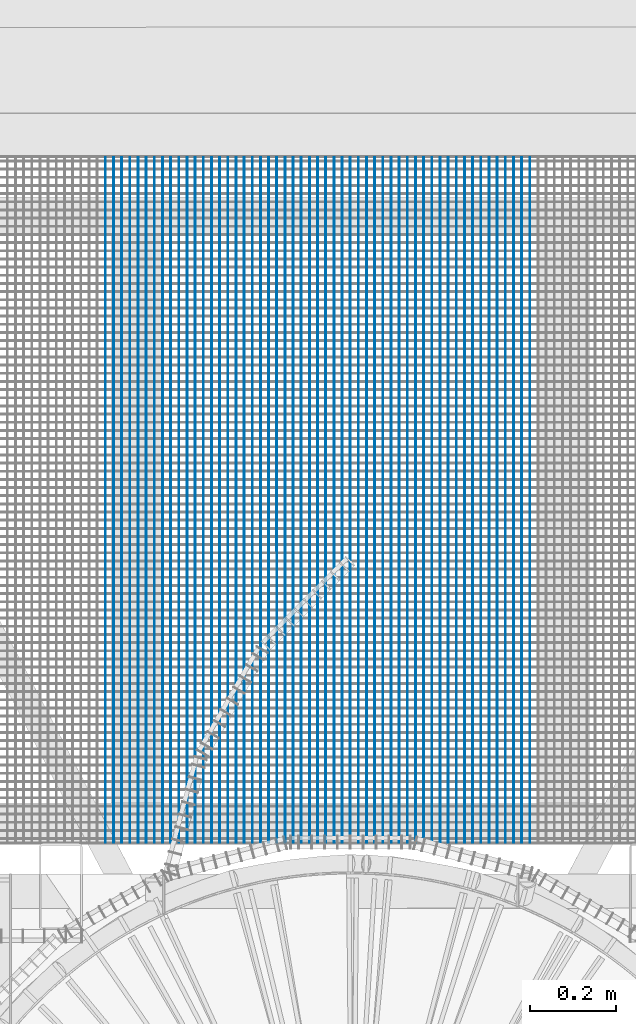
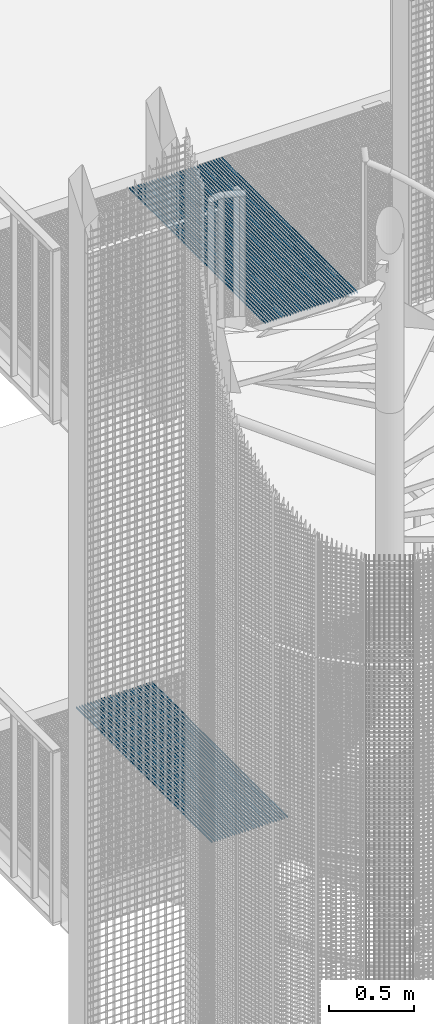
# One storey, part 83 of 1148: 62 beams, 2 elements without a shape of their own.
"""IFC2X3 building model written with IfcOpenShell, lengths in millimetres."""

from ifc_helpers import new_model, si_unit, frame, origin_with_axes, origin_2d_with_axis, place, context, subcontext, project, spatial, rectangle, extrude, material, type_object, element, aggregate, save


model = new_model("IFC2X3")

# Units and contexts
model_context = context("Model", 3, precision=1e-05, world=origin_with_axes())
body_context = subcontext(model_context, "Body", "Model", "MODEL_VIEW")
ifc_project = project(units=[si_unit("LENGTHUNIT", "METRE", prefix="MILLI"), si_unit("AREAUNIT", "SQUARE_METRE"), si_unit("VOLUMEUNIT", "CUBIC_METRE"), si_unit("MASSUNIT", "GRAM", prefix="KILO"), si_unit("TIMEUNIT", "SECOND"), si_unit("PLANEANGLEUNIT", "RADIAN"), si_unit("SOLIDANGLEUNIT", "STERADIAN"), si_unit("THERMODYNAMICTEMPERATUREUNIT", "DEGREE_CELSIUS"), si_unit("LUMINOUSINTENSITYUNIT", "LUMEN")], contexts=[model_context])

# Site, building, storey
site_placement = place(None, origin_with_axes())
site = spatial("IfcSite", under=ifc_project, at=site_placement, Name="Undefined", CompositionType="ELEMENT")
building_placement = place(site_placement, origin_with_axes())
building = spatial("IfcBuilding", under=site, at=building_placement, Name="Undefined", CompositionType="ELEMENT")
storey_placement = place(building_placement, origin_with_axes())
storey = spatial("IfcBuildingStorey", under=building, at=storey_placement, Name="Undefined", CompositionType="ELEMENT", Elevation=0.0)

# Assembly, beams
assembly_1_placement = place(storey_placement, origin_with_axes())
assembly_1 = element("IfcElementAssembly", 1, at=assembly_1_placement, inside=storey, Name="BORDURE", AssemblyPlace="NOTDEFINED", PredefinedType="NOTDEFINED")
ifc_material = material(Name="STEEL/S235JR")
beam_type = type_object("IfcBeamType", Name="PL2*10", PredefinedType="NOTDEFINED")
beam_1_placement = place(assembly_1_placement, frame((-208.924575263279, 1102.0012903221, 10085.0), z_axis=(0.0, 0.0, 1.0), x_axis=(-4.50599999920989e-06, 0.999999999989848, 0.0)))
beam_1 = element("IfcBeam", 2, at=beam_1_placement, type_object=beam_type, material=ifc_material, Name="ENTRETOISE", context=body_context, shape_type="SweptSolid", body=[
    extrude(rectangle(XDim=2.0, YDim=10.0, at=origin_2d_with_axis()), frame((1596.0000000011, -1.35186458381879e-18, -7.27595761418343e-12), z_axis=(-1.0, 0.0, 0.0), x_axis=(0.0, -1.0, 0.0)), (0.0, 0.0, 1.0), 1596.0),
])
beam_2_placement = place(assembly_1_placement, frame((-189.924575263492, 1102.00138384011, 10085.0), z_axis=(0.0, 0.0, 1.0), x_axis=(-4.50599999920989e-06, 0.999999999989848, 0.0)))
beam_2 = element("IfcBeam", 3, at=beam_2_placement, type_object=beam_type, material=ifc_material, Name="ENTRETOISE", context=body_context, shape_type="SweptSolid", body=[
    extrude(rectangle(XDim=2.0, YDim=10.0, at=origin_2d_with_axis()), frame((1596.0000000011, -1.35186458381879e-18, -7.27595761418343e-12), z_axis=(-1.0, 0.0, 0.0), x_axis=(0.0, -1.0, 0.0)), (0.0, 0.0, 1.0), 1596.0),
])
beam_3_placement = place(assembly_1_placement, frame((-170.924575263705, 1102.00147735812, 10085.0), z_axis=(0.0, 0.0, 1.0), x_axis=(-4.50599999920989e-06, 0.999999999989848, 0.0)))
beam_3 = element("IfcBeam", 4, at=beam_3_placement, type_object=beam_type, material=ifc_material, Name="ENTRETOISE", context=body_context, shape_type="SweptSolid", body=[
    extrude(rectangle(XDim=2.0, YDim=10.0, at=origin_2d_with_axis()), frame((1596.0000000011, -1.35186458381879e-18, -7.27595761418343e-12), z_axis=(-1.0, 0.0, 0.0), x_axis=(0.0, -1.0, 0.0)), (0.0, 0.0, 1.0), 1596.0),
])
beam_4_placement = place(assembly_1_placement, frame((-151.924575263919, 1102.00157087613, 10085.0), z_axis=(0.0, 0.0, 1.0), x_axis=(-4.50599999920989e-06, 0.999999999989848, 0.0)))
beam_4 = element("IfcBeam", 5, at=beam_4_placement, type_object=beam_type, material=ifc_material, Name="ENTRETOISE", context=body_context, shape_type="SweptSolid", body=[
    extrude(rectangle(XDim=2.0, YDim=10.0, at=origin_2d_with_axis()), frame((1596.0000000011, -1.35186458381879e-18, -7.27595761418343e-12), z_axis=(-1.0, 0.0, 0.0), x_axis=(0.0, -1.0, 0.0)), (0.0, 0.0, 1.0), 1596.0),
])
beam_5_placement = place(assembly_1_placement, frame((-132.924575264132, 1102.00166439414, 10085.0), z_axis=(0.0, 0.0, 1.0), x_axis=(-4.50599999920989e-06, 0.999999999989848, 0.0)))
beam_5 = element("IfcBeam", 6, at=beam_5_placement, type_object=beam_type, material=ifc_material, Name="ENTRETOISE", context=body_context, shape_type="SweptSolid", body=[
    extrude(rectangle(XDim=2.0, YDim=10.0, at=origin_2d_with_axis()), frame((1596.0000000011, -1.35186458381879e-18, -7.27595761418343e-12), z_axis=(-1.0, 0.0, 0.0), x_axis=(0.0, -1.0, 0.0)), (0.0, 0.0, 1.0), 1596.0),
])
beam_6_placement = place(assembly_1_placement, frame((-113.924575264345, 1102.00175791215, 10085.0), z_axis=(0.0, 0.0, 1.0), x_axis=(-4.50599999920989e-06, 0.999999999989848, 0.0)))
beam_6 = element("IfcBeam", 7, at=beam_6_placement, type_object=beam_type, material=ifc_material, Name="ENTRETOISE", context=body_context, shape_type="SweptSolid", body=[
    extrude(rectangle(XDim=2.0, YDim=10.0, at=origin_2d_with_axis()), frame((1596.0000000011, -1.35186458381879e-18, -7.27595761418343e-12), z_axis=(-1.0, 0.0, 0.0), x_axis=(0.0, -1.0, 0.0)), (0.0, 0.0, 1.0), 1596.0),
])
beam_7_placement = place(assembly_1_placement, frame((-94.9245752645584, 1102.00185143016, 10085.0), z_axis=(0.0, 0.0, 1.0), x_axis=(-4.50599999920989e-06, 0.999999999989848, 0.0)))
beam_7 = element("IfcBeam", 8, at=beam_7_placement, type_object=beam_type, material=ifc_material, Name="ENTRETOISE", context=body_context, shape_type="SweptSolid", body=[
    extrude(rectangle(XDim=2.0, YDim=10.0, at=origin_2d_with_axis()), frame((1596.0000000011, -1.35186458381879e-18, -7.27595761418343e-12), z_axis=(-1.0, 0.0, 0.0), x_axis=(0.0, -1.0, 0.0)), (0.0, 0.0, 1.0), 1596.0),
])
beam_8_placement = place(assembly_1_placement, frame((-75.9245752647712, 1102.00194494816, 10085.0), z_axis=(0.0, 0.0, 1.0), x_axis=(-4.50599999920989e-06, 0.999999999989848, 0.0)))
beam_8 = element("IfcBeam", 9, at=beam_8_placement, type_object=beam_type, material=ifc_material, Name="ENTRETOISE", context=body_context, shape_type="SweptSolid", body=[
    extrude(rectangle(XDim=2.0, YDim=10.0, at=origin_2d_with_axis()), frame((1596.0000000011, -1.35186458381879e-18, -7.27595761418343e-12), z_axis=(-1.0, 0.0, 0.0), x_axis=(0.0, -1.0, 0.0)), (0.0, 0.0, 1.0), 1596.0),
])
beam_9_placement = place(assembly_1_placement, frame((-56.9245752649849, 1102.00203846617, 10085.0), z_axis=(0.0, 0.0, 1.0), x_axis=(-4.50599999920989e-06, 0.999999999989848, 0.0)))
beam_9 = element("IfcBeam", 10, at=beam_9_placement, type_object=beam_type, material=ifc_material, Name="ENTRETOISE", context=body_context, shape_type="SweptSolid", body=[
    extrude(rectangle(XDim=2.0, YDim=10.0, at=origin_2d_with_axis()), frame((1596.0000000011, -1.35186458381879e-18, -7.27595761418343e-12), z_axis=(-1.0, 0.0, 0.0), x_axis=(0.0, -1.0, 0.0)), (0.0, 0.0, 1.0), 1596.0),
])
beam_10_placement = place(assembly_1_placement, frame((-37.9245752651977, 1102.00213198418, 10085.0), z_axis=(0.0, 0.0, 1.0), x_axis=(-4.50599999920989e-06, 0.999999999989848, 0.0)))
beam_10 = element("IfcBeam", 11, at=beam_10_placement, type_object=beam_type, material=ifc_material, Name="ENTRETOISE", context=body_context, shape_type="SweptSolid", body=[
    extrude(rectangle(XDim=2.0, YDim=10.0, at=origin_2d_with_axis()), frame((1596.0000000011, -1.35186458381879e-18, -7.27595761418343e-12), z_axis=(-1.0, 0.0, 0.0), x_axis=(0.0, -1.0, 0.0)), (0.0, 0.0, 1.0), 1596.0),
])
beam_11_placement = place(assembly_1_placement, frame((-18.9245752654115, 1102.00222550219, 10085.0), z_axis=(0.0, 0.0, 1.0), x_axis=(-4.50599999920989e-06, 0.999999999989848, 0.0)))
beam_11 = element("IfcBeam", 12, at=beam_11_placement, type_object=beam_type, material=ifc_material, Name="ENTRETOISE", context=body_context, shape_type="SweptSolid", body=[
    extrude(rectangle(XDim=2.0, YDim=10.0, at=origin_2d_with_axis()), frame((1596.0000000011, -1.35186458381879e-18, -7.27595761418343e-12), z_axis=(-1.0, 0.0, 0.0), x_axis=(0.0, -1.0, 0.0)), (0.0, 0.0, 1.0), 1596.0),
])
beam_12_placement = place(assembly_1_placement, frame((0.075424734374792, 1102.0023190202, 10085.0), z_axis=(0.0, 0.0, 1.0), x_axis=(-4.50599999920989e-06, 0.999999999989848, 0.0)))
beam_12 = element("IfcBeam", 13, at=beam_12_placement, type_object=beam_type, material=ifc_material, Name="ENTRETOISE", context=body_context, shape_type="SweptSolid", body=[
    extrude(rectangle(XDim=2.0, YDim=10.0, at=origin_2d_with_axis()), frame((1596.0000000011, -1.35186458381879e-18, -7.27595761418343e-12), z_axis=(-1.0, 0.0, 0.0), x_axis=(0.0, -1.0, 0.0)), (0.0, 0.0, 1.0), 1596.0),
])
beam_13_placement = place(assembly_1_placement, frame((19.075424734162, 1102.00241253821, 10085.0), z_axis=(0.0, 0.0, 1.0), x_axis=(-4.50599999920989e-06, 0.999999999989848, 0.0)))
beam_13 = element("IfcBeam", 14, at=beam_13_placement, type_object=beam_type, material=ifc_material, Name="ENTRETOISE", context=body_context, shape_type="SweptSolid", body=[
    extrude(rectangle(XDim=2.0, YDim=10.0, at=origin_2d_with_axis()), frame((1596.0000000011, -1.35186458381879e-18, -7.27595761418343e-12), z_axis=(-1.0, 0.0, 0.0), x_axis=(0.0, -1.0, 0.0)), (0.0, 0.0, 1.0), 1596.0),
])
beam_14_placement = place(assembly_1_placement, frame((38.0754247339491, 1102.00250605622, 10085.0), z_axis=(0.0, 0.0, 1.0), x_axis=(-4.50599999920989e-06, 0.999999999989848, 0.0)))
beam_14 = element("IfcBeam", 15, at=beam_14_placement, type_object=beam_type, material=ifc_material, Name="ENTRETOISE", context=body_context, shape_type="SweptSolid", body=[
    extrude(rectangle(XDim=2.0, YDim=10.0, at=origin_2d_with_axis()), frame((1596.0000000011, -1.35186458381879e-18, -7.27595761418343e-12), z_axis=(-1.0, 0.0, 0.0), x_axis=(0.0, -1.0, 0.0)), (0.0, 0.0, 1.0), 1596.0),
])
beam_15_placement = place(assembly_1_placement, frame((57.0754247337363, 1102.00259957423, 10085.0), z_axis=(0.0, 0.0, 1.0), x_axis=(-4.50599999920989e-06, 0.999999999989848, 0.0)))
beam_15 = element("IfcBeam", 16, at=beam_15_placement, type_object=beam_type, material=ifc_material, Name="ENTRETOISE", context=body_context, shape_type="SweptSolid", body=[
    extrude(rectangle(XDim=2.0, YDim=10.0, at=origin_2d_with_axis()), frame((1596.0000000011, -1.35186458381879e-18, -7.27595761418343e-12), z_axis=(-1.0, 0.0, 0.0), x_axis=(0.0, -1.0, 0.0)), (0.0, 0.0, 1.0), 1596.0),
])
beam_16_placement = place(assembly_1_placement, frame((76.0754247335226, 1102.00269309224, 10085.0), z_axis=(0.0, 0.0, 1.0), x_axis=(-4.50599999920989e-06, 0.999999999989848, 0.0)))
beam_16 = element("IfcBeam", 17, at=beam_16_placement, type_object=beam_type, material=ifc_material, Name="ENTRETOISE", context=body_context, shape_type="SweptSolid", body=[
    extrude(rectangle(XDim=2.0, YDim=10.0, at=origin_2d_with_axis()), frame((1596.0000000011, -1.35186458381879e-18, -7.27595761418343e-12), z_axis=(-1.0, 0.0, 0.0), x_axis=(0.0, -1.0, 0.0)), (0.0, 0.0, 1.0), 1596.0),
])
beam_17_placement = place(assembly_1_placement, frame((95.0754247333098, 1102.00278661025, 10085.0), z_axis=(0.0, 0.0, 1.0), x_axis=(-4.50599999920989e-06, 0.999999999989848, 0.0)))
beam_17 = element("IfcBeam", 18, at=beam_17_placement, type_object=beam_type, material=ifc_material, Name="ENTRETOISE", context=body_context, shape_type="SweptSolid", body=[
    extrude(rectangle(XDim=2.0, YDim=10.0, at=origin_2d_with_axis()), frame((1596.0000000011, -1.35186458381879e-18, -7.27595761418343e-12), z_axis=(-1.0, 0.0, 0.0), x_axis=(0.0, -1.0, 0.0)), (0.0, 0.0, 1.0), 1596.0),
])
beam_18_placement = place(assembly_1_placement, frame((114.075424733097, 1102.00288012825, 10085.0), z_axis=(0.0, 0.0, 1.0), x_axis=(-4.50599999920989e-06, 0.999999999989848, 0.0)))
beam_18 = element("IfcBeam", 19, at=beam_18_placement, type_object=beam_type, material=ifc_material, Name="ENTRETOISE", context=body_context, shape_type="SweptSolid", body=[
    extrude(rectangle(XDim=2.0, YDim=10.0, at=origin_2d_with_axis()), frame((1596.0000000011, -1.35186458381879e-18, -7.27595761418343e-12), z_axis=(-1.0, 0.0, 0.0), x_axis=(0.0, -1.0, 0.0)), (0.0, 0.0, 1.0), 1596.0),
])
beam_19_placement = place(assembly_1_placement, frame((133.075424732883, 1102.00297364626, 10085.0), z_axis=(0.0, 0.0, 1.0), x_axis=(-4.50599999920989e-06, 0.999999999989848, 0.0)))
beam_19 = element("IfcBeam", 20, at=beam_19_placement, type_object=beam_type, material=ifc_material, Name="ENTRETOISE", context=body_context, shape_type="SweptSolid", body=[
    extrude(rectangle(XDim=2.0, YDim=10.0, at=origin_2d_with_axis()), frame((1596.0000000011, -1.35186458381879e-18, -7.27595761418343e-12), z_axis=(-1.0, 0.0, 0.0), x_axis=(0.0, -1.0, 0.0)), (0.0, 0.0, 1.0), 1596.0),
])
beam_20_placement = place(assembly_1_placement, frame((152.075424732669, 1102.00306716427, 10085.0), z_axis=(0.0, 0.0, 1.0), x_axis=(-4.50599999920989e-06, 0.999999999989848, 0.0)))
beam_20 = element("IfcBeam", 21, at=beam_20_placement, type_object=beam_type, material=ifc_material, Name="ENTRETOISE", context=body_context, shape_type="SweptSolid", body=[
    extrude(rectangle(XDim=2.0, YDim=10.0, at=origin_2d_with_axis()), frame((1596.0000000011, -1.35186458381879e-18, -7.27595761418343e-12), z_axis=(-1.0, 0.0, 0.0), x_axis=(0.0, -1.0, 0.0)), (0.0, 0.0, 1.0), 1596.0),
])
beam_21_placement = place(assembly_1_placement, frame((171.075424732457, 1102.00316068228, 10085.0), z_axis=(0.0, 0.0, 1.0), x_axis=(-4.50599999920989e-06, 0.999999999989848, 0.0)))
beam_21 = element("IfcBeam", 22, at=beam_21_placement, type_object=beam_type, material=ifc_material, Name="ENTRETOISE", context=body_context, shape_type="SweptSolid", body=[
    extrude(rectangle(XDim=2.0, YDim=10.0, at=origin_2d_with_axis()), frame((1596.0000000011, -1.35186458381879e-18, -7.27595761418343e-12), z_axis=(-1.0, 0.0, 0.0), x_axis=(0.0, -1.0, 0.0)), (0.0, 0.0, 1.0), 1596.0),
])
beam_22_placement = place(assembly_1_placement, frame((190.075424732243, 1102.00325420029, 10085.0), z_axis=(0.0, 0.0, 1.0), x_axis=(-4.50599999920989e-06, 0.999999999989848, 0.0)))
beam_22 = element("IfcBeam", 23, at=beam_22_placement, type_object=beam_type, material=ifc_material, Name="ENTRETOISE", context=body_context, shape_type="SweptSolid", body=[
    extrude(rectangle(XDim=2.0, YDim=10.0, at=origin_2d_with_axis()), frame((1596.0000000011, -1.35186458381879e-18, -7.27595761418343e-12), z_axis=(-1.0, 0.0, 0.0), x_axis=(0.0, -1.0, 0.0)), (0.0, 0.0, 1.0), 1596.0),
])
beam_23_placement = place(assembly_1_placement, frame((209.07542473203, 1102.0033477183, 10085.0), z_axis=(0.0, 0.0, 1.0), x_axis=(-4.50599999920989e-06, 0.999999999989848, 0.0)))
beam_23 = element("IfcBeam", 24, at=beam_23_placement, type_object=beam_type, material=ifc_material, Name="ENTRETOISE", context=body_context, shape_type="SweptSolid", body=[
    extrude(rectangle(XDim=2.0, YDim=10.0, at=origin_2d_with_axis()), frame((1596.0000000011, -1.35186458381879e-18, -7.27595761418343e-12), z_axis=(-1.0, 0.0, 0.0), x_axis=(0.0, -1.0, 0.0)), (0.0, 0.0, 1.0), 1596.0),
])
beam_24_placement = place(assembly_1_placement, frame((228.075424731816, 1102.00344123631, 10085.0), z_axis=(0.0, 0.0, 1.0), x_axis=(-4.50599999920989e-06, 0.999999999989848, 0.0)))
beam_24 = element("IfcBeam", 25, at=beam_24_placement, type_object=beam_type, material=ifc_material, Name="ENTRETOISE", context=body_context, shape_type="SweptSolid", body=[
    extrude(rectangle(XDim=2.0, YDim=10.0, at=origin_2d_with_axis()), frame((1596.0000000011, -1.35186458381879e-18, -7.27595761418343e-12), z_axis=(-1.0, 0.0, 0.0), x_axis=(0.0, -1.0, 0.0)), (0.0, 0.0, 1.0), 1596.0),
])
beam_25_placement = place(assembly_1_placement, frame((247.075424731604, 1102.00353475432, 10085.0), z_axis=(0.0, 0.0, 1.0), x_axis=(-4.50599999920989e-06, 0.999999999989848, 0.0)))
beam_25 = element("IfcBeam", 26, at=beam_25_placement, type_object=beam_type, material=ifc_material, Name="ENTRETOISE", context=body_context, shape_type="SweptSolid", body=[
    extrude(rectangle(XDim=2.0, YDim=10.0, at=origin_2d_with_axis()), frame((1596.0000000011, -1.35186458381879e-18, -7.27595761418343e-12), z_axis=(-1.0, 0.0, 0.0), x_axis=(0.0, -1.0, 0.0)), (0.0, 0.0, 1.0), 1596.0),
])
beam_26_placement = place(assembly_1_placement, frame((266.075424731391, 1102.00362827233, 10085.0), z_axis=(0.0, 0.0, 1.0), x_axis=(-4.50599999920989e-06, 0.999999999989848, 0.0)))
beam_26 = element("IfcBeam", 27, at=beam_26_placement, type_object=beam_type, material=ifc_material, Name="ENTRETOISE", context=body_context, shape_type="SweptSolid", body=[
    extrude(rectangle(XDim=2.0, YDim=10.0, at=origin_2d_with_axis()), frame((1596.0000000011, -1.35186458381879e-18, -7.27595761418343e-12), z_axis=(-1.0, 0.0, 0.0), x_axis=(0.0, -1.0, 0.0)), (0.0, 0.0, 1.0), 1596.0),
])
beam_27_placement = place(assembly_1_placement, frame((285.075424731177, 1102.00372179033, 10085.0), z_axis=(0.0, 0.0, 1.0), x_axis=(-4.50599999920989e-06, 0.999999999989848, 0.0)))
beam_27 = element("IfcBeam", 28, at=beam_27_placement, type_object=beam_type, material=ifc_material, Name="ENTRETOISE", context=body_context, shape_type="SweptSolid", body=[
    extrude(rectangle(XDim=2.0, YDim=10.0, at=origin_2d_with_axis()), frame((1596.0000000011, -1.35186458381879e-18, -7.27595761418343e-12), z_axis=(-1.0, 0.0, 0.0), x_axis=(0.0, -1.0, 0.0)), (0.0, 0.0, 1.0), 1596.0),
])
beam_28_placement = place(assembly_1_placement, frame((304.075424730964, 1102.00381530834, 10085.0), z_axis=(0.0, 0.0, 1.0), x_axis=(-4.50599999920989e-06, 0.999999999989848, 0.0)))
beam_28 = element("IfcBeam", 29, at=beam_28_placement, type_object=beam_type, material=ifc_material, Name="ENTRETOISE", context=body_context, shape_type="SweptSolid", body=[
    extrude(rectangle(XDim=2.0, YDim=10.0, at=origin_2d_with_axis()), frame((1596.0000000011, -1.35186458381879e-18, -7.27595761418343e-12), z_axis=(-1.0, 0.0, 0.0), x_axis=(0.0, -1.0, 0.0)), (0.0, 0.0, 1.0), 1596.0),
])
beam_29_placement = place(assembly_1_placement, frame((323.07542473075, 1102.00390882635, 10085.0), z_axis=(0.0, 0.0, 1.0), x_axis=(-4.50599999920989e-06, 0.999999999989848, 0.0)))
beam_29 = element("IfcBeam", 30, at=beam_29_placement, type_object=beam_type, material=ifc_material, Name="ENTRETOISE", context=body_context, shape_type="SweptSolid", body=[
    extrude(rectangle(XDim=2.0, YDim=10.0, at=origin_2d_with_axis()), frame((1596.0000000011, -1.35186458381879e-18, -7.27595761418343e-12), z_axis=(-1.0, 0.0, 0.0), x_axis=(0.0, -1.0, 0.0)), (0.0, 0.0, 1.0), 1596.0),
])
beam_30_placement = place(assembly_1_placement, frame((342.075424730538, 1102.00400234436, 10085.0), z_axis=(0.0, 0.0, 1.0), x_axis=(-4.50599999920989e-06, 0.999999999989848, 0.0)))
beam_30 = element("IfcBeam", 31, at=beam_30_placement, type_object=beam_type, material=ifc_material, Name="ENTRETOISE", context=body_context, shape_type="SweptSolid", body=[
    extrude(rectangle(XDim=2.0, YDim=10.0, at=origin_2d_with_axis()), frame((1596.0000000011, -1.35186458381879e-18, -7.27595761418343e-12), z_axis=(-1.0, 0.0, 0.0), x_axis=(0.0, -1.0, 0.0)), (0.0, 0.0, 1.0), 1596.0),
])
beam_31_placement = place(assembly_1_placement, frame((361.075424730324, 1102.00409586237, 10085.0), z_axis=(0.0, 0.0, 1.0), x_axis=(-4.50599999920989e-06, 0.999999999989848, 0.0)))
beam_31 = element("IfcBeam", 32, at=beam_31_placement, type_object=beam_type, material=ifc_material, Name="ENTRETOISE", context=body_context, shape_type="SweptSolid", body=[
    extrude(rectangle(XDim=2.0, YDim=10.0, at=origin_2d_with_axis()), frame((1596.0000000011, -1.35186458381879e-18, -7.27595761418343e-12), z_axis=(-1.0, 0.0, 0.0), x_axis=(0.0, -1.0, 0.0)), (0.0, 0.0, 1.0), 1596.0),
])
beam_32_placement = place(assembly_1_placement, frame((380.075424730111, 1102.00418938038, 10085.0), z_axis=(0.0, 0.0, 1.0), x_axis=(-4.50599999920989e-06, 0.999999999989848, 0.0)))
beam_32 = element("IfcBeam", 33, at=beam_32_placement, type_object=beam_type, material=ifc_material, Name="ENTRETOISE", context=body_context, shape_type="SweptSolid", body=[
    extrude(rectangle(XDim=2.0, YDim=10.0, at=origin_2d_with_axis()), frame((1596.0000000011, -1.35186458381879e-18, -7.27595761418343e-12), z_axis=(-1.0, 0.0, 0.0), x_axis=(0.0, -1.0, 0.0)), (0.0, 0.0, 1.0), 1596.0),
])
beam_33_placement = place(assembly_1_placement, frame((399.075424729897, 1102.00428289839, 10085.0), z_axis=(0.0, 0.0, 1.0), x_axis=(-4.50599999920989e-06, 0.999999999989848, 0.0)))
beam_33 = element("IfcBeam", 34, at=beam_33_placement, type_object=beam_type, material=ifc_material, Name="ENTRETOISE", context=body_context, shape_type="SweptSolid", body=[
    extrude(rectangle(XDim=2.0, YDim=10.0, at=origin_2d_with_axis()), frame((1596.0000000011, -1.35186458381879e-18, -7.27595761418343e-12), z_axis=(-1.0, 0.0, 0.0), x_axis=(0.0, -1.0, 0.0)), (0.0, 0.0, 1.0), 1596.0),
])
beam_34_placement = place(assembly_1_placement, frame((418.075424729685, 1102.0043764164, 10085.0), z_axis=(0.0, 0.0, 1.0), x_axis=(-4.50599999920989e-06, 0.999999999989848, 0.0)))
beam_34 = element("IfcBeam", 35, at=beam_34_placement, type_object=beam_type, material=ifc_material, Name="ENTRETOISE", context=body_context, shape_type="SweptSolid", body=[
    extrude(rectangle(XDim=2.0, YDim=10.0, at=origin_2d_with_axis()), frame((1596.0000000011, -1.35186458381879e-18, -7.27595761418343e-12), z_axis=(-1.0, 0.0, 0.0), x_axis=(0.0, -1.0, 0.0)), (0.0, 0.0, 1.0), 1596.0),
])
aggregate(assembly_1, [beam_1, beam_2, beam_3, beam_4, beam_5, beam_6, beam_7, beam_8, beam_9, beam_10, beam_11, beam_12, beam_13, beam_14, beam_15, beam_16, beam_17, beam_18, beam_19, beam_20, beam_21, beam_22, beam_23, beam_24, beam_25, beam_26, beam_27, beam_28, beam_29, beam_30, beam_31, beam_32, beam_33, beam_34])

assembly_2_placement = place(storey_placement, origin_with_axes())
assembly_2 = element("IfcElementAssembly", 36, at=assembly_2_placement, inside=storey, Name="BORDURE", AssemblyPlace="NOTDEFINED", PredefinedType="NOTDEFINED")
beam_35_placement = place(assembly_2_placement, frame((-569.924575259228, 1101.99951347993, 6485.0), z_axis=(0.0, 0.0, 1.0), x_axis=(-4.50599999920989e-06, 0.999999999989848, 0.0)))
beam_35 = element("IfcBeam", 37, at=beam_35_placement, type_object=beam_type, material=ifc_material, Name="ENTRETOISE", context=body_context, shape_type="SweptSolid", body=[
    extrude(rectangle(XDim=2.0, YDim=10.0, at=origin_2d_with_axis()), frame((1596.0000000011, -1.35186458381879e-18, -7.27595761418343e-12), z_axis=(-1.0, 0.0, 0.0), x_axis=(0.0, -1.0, 0.0)), (0.0, 0.0, 1.0), 1596.0),
])
beam_36_placement = place(assembly_2_placement, frame((-550.924575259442, 1101.99960699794, 6485.0), z_axis=(0.0, 0.0, 1.0), x_axis=(-4.50599999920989e-06, 0.999999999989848, 0.0)))
beam_36 = element("IfcBeam", 38, at=beam_36_placement, type_object=beam_type, material=ifc_material, Name="ENTRETOISE", context=body_context, shape_type="SweptSolid", body=[
    extrude(rectangle(XDim=2.0, YDim=10.0, at=origin_2d_with_axis()), frame((1596.0000000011, -1.35186458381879e-18, -7.27595761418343e-12), z_axis=(-1.0, 0.0, 0.0), x_axis=(0.0, -1.0, 0.0)), (0.0, 0.0, 1.0), 1596.0),
])
beam_37_placement = place(assembly_2_placement, frame((-531.924575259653, 1101.99970051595, 6485.0), z_axis=(0.0, 0.0, 1.0), x_axis=(-4.50599999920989e-06, 0.999999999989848, 0.0)))
beam_37 = element("IfcBeam", 39, at=beam_37_placement, type_object=beam_type, material=ifc_material, Name="ENTRETOISE", context=body_context, shape_type="SweptSolid", body=[
    extrude(rectangle(XDim=2.0, YDim=10.0, at=origin_2d_with_axis()), frame((1596.0000000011, -1.35186458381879e-18, -7.27595761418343e-12), z_axis=(-1.0, 0.0, 0.0), x_axis=(0.0, -1.0, 0.0)), (0.0, 0.0, 1.0), 1596.0),
])
beam_38_placement = place(assembly_2_placement, frame((-512.924575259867, 1101.99979403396, 6485.0), z_axis=(0.0, 0.0, 1.0), x_axis=(-4.50599999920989e-06, 0.999999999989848, 0.0)))
beam_38 = element("IfcBeam", 40, at=beam_38_placement, type_object=beam_type, material=ifc_material, Name="ENTRETOISE", context=body_context, shape_type="SweptSolid", body=[
    extrude(rectangle(XDim=2.0, YDim=10.0, at=origin_2d_with_axis()), frame((1596.0000000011, -1.35186458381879e-18, -7.27595761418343e-12), z_axis=(-1.0, 0.0, 0.0), x_axis=(0.0, -1.0, 0.0)), (0.0, 0.0, 1.0), 1596.0),
])
beam_39_placement = place(assembly_2_placement, frame((-493.92457526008, 1101.99988755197, 6485.0), z_axis=(0.0, 0.0, 1.0), x_axis=(-4.50599999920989e-06, 0.999999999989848, 0.0)))
beam_39 = element("IfcBeam", 41, at=beam_39_placement, type_object=beam_type, material=ifc_material, Name="ENTRETOISE", context=body_context, shape_type="SweptSolid", body=[
    extrude(rectangle(XDim=2.0, YDim=10.0, at=origin_2d_with_axis()), frame((1596.0000000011, -1.35186458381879e-18, -7.27595761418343e-12), z_axis=(-1.0, 0.0, 0.0), x_axis=(0.0, -1.0, 0.0)), (0.0, 0.0, 1.0), 1596.0),
])
beam_40_placement = place(assembly_2_placement, frame((-474.924575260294, 1101.99998106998, 6485.0), z_axis=(0.0, 0.0, 1.0), x_axis=(-4.50599999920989e-06, 0.999999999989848, 0.0)))
beam_40 = element("IfcBeam", 42, at=beam_40_placement, type_object=beam_type, material=ifc_material, Name="ENTRETOISE", context=body_context, shape_type="SweptSolid", body=[
    extrude(rectangle(XDim=2.0, YDim=10.0, at=origin_2d_with_axis()), frame((1596.0000000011, -1.35186458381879e-18, -7.27595761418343e-12), z_axis=(-1.0, 0.0, 0.0), x_axis=(0.0, -1.0, 0.0)), (0.0, 0.0, 1.0), 1596.0),
])
beam_41_placement = place(assembly_2_placement, frame((-455.924575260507, 1102.00007458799, 6485.0), z_axis=(0.0, 0.0, 1.0), x_axis=(-4.50599999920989e-06, 0.999999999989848, 0.0)))
beam_41 = element("IfcBeam", 43, at=beam_41_placement, type_object=beam_type, material=ifc_material, Name="ENTRETOISE", context=body_context, shape_type="SweptSolid", body=[
    extrude(rectangle(XDim=2.0, YDim=10.0, at=origin_2d_with_axis()), frame((1596.0000000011, -1.35186458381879e-18, -7.27595761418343e-12), z_axis=(-1.0, 0.0, 0.0), x_axis=(0.0, -1.0, 0.0)), (0.0, 0.0, 1.0), 1596.0),
])
beam_42_placement = place(assembly_2_placement, frame((-436.92457526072, 1102.00016810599, 6485.0), z_axis=(0.0, 0.0, 1.0), x_axis=(-4.50599999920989e-06, 0.999999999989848, 0.0)))
beam_42 = element("IfcBeam", 44, at=beam_42_placement, type_object=beam_type, material=ifc_material, Name="ENTRETOISE", context=body_context, shape_type="SweptSolid", body=[
    extrude(rectangle(XDim=2.0, YDim=10.0, at=origin_2d_with_axis()), frame((1596.0000000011, -1.35186458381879e-18, -7.27595761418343e-12), z_axis=(-1.0, 0.0, 0.0), x_axis=(0.0, -1.0, 0.0)), (0.0, 0.0, 1.0), 1596.0),
])
beam_43_placement = place(assembly_2_placement, frame((-417.924575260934, 1102.000261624, 6485.0), z_axis=(0.0, 0.0, 1.0), x_axis=(-4.50599999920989e-06, 0.999999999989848, 0.0)))
beam_43 = element("IfcBeam", 45, at=beam_43_placement, type_object=beam_type, material=ifc_material, Name="ENTRETOISE", context=body_context, shape_type="SweptSolid", body=[
    extrude(rectangle(XDim=2.0, YDim=10.0, at=origin_2d_with_axis()), frame((1596.0000000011, -1.35186458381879e-18, -7.27595761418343e-12), z_axis=(-1.0, 0.0, 0.0), x_axis=(0.0, -1.0, 0.0)), (0.0, 0.0, 1.0), 1596.0),
])
beam_44_placement = place(assembly_2_placement, frame((-398.924575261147, 1102.00035514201, 6485.0), z_axis=(0.0, 0.0, 1.0), x_axis=(-4.50599999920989e-06, 0.999999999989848, 0.0)))
beam_44 = element("IfcBeam", 46, at=beam_44_placement, type_object=beam_type, material=ifc_material, Name="ENTRETOISE", context=body_context, shape_type="SweptSolid", body=[
    extrude(rectangle(XDim=2.0, YDim=10.0, at=origin_2d_with_axis()), frame((1596.0000000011, -1.35186458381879e-18, -7.27595761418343e-12), z_axis=(-1.0, 0.0, 0.0), x_axis=(0.0, -1.0, 0.0)), (0.0, 0.0, 1.0), 1596.0),
])
beam_45_placement = place(assembly_2_placement, frame((-379.924575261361, 1102.00044866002, 6485.0), z_axis=(0.0, 0.0, 1.0), x_axis=(-4.50599999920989e-06, 0.999999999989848, 0.0)))
beam_45 = element("IfcBeam", 47, at=beam_45_placement, type_object=beam_type, material=ifc_material, Name="ENTRETOISE", context=body_context, shape_type="SweptSolid", body=[
    extrude(rectangle(XDim=2.0, YDim=10.0, at=origin_2d_with_axis()), frame((1596.0000000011, -1.35186458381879e-18, -7.27595761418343e-12), z_axis=(-1.0, 0.0, 0.0), x_axis=(0.0, -1.0, 0.0)), (0.0, 0.0, 1.0), 1596.0),
])
beam_46_placement = place(assembly_2_placement, frame((-360.924575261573, 1102.00054217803, 6485.0), z_axis=(0.0, 0.0, 1.0), x_axis=(-4.50599999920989e-06, 0.999999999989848, 0.0)))
beam_46 = element("IfcBeam", 48, at=beam_46_placement, type_object=beam_type, material=ifc_material, Name="ENTRETOISE", context=body_context, shape_type="SweptSolid", body=[
    extrude(rectangle(XDim=2.0, YDim=10.0, at=origin_2d_with_axis()), frame((1596.0000000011, -1.35186458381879e-18, -7.27595761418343e-12), z_axis=(-1.0, 0.0, 0.0), x_axis=(0.0, -1.0, 0.0)), (0.0, 0.0, 1.0), 1596.0),
])
beam_47_placement = place(assembly_2_placement, frame((-341.924575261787, 1102.00063569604, 6485.0), z_axis=(0.0, 0.0, 1.0), x_axis=(-4.50599999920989e-06, 0.999999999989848, 0.0)))
beam_47 = element("IfcBeam", 49, at=beam_47_placement, type_object=beam_type, material=ifc_material, Name="ENTRETOISE", context=body_context, shape_type="SweptSolid", body=[
    extrude(rectangle(XDim=2.0, YDim=10.0, at=origin_2d_with_axis()), frame((1596.0000000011, -1.35186458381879e-18, -7.27595761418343e-12), z_axis=(-1.0, 0.0, 0.0), x_axis=(0.0, -1.0, 0.0)), (0.0, 0.0, 1.0), 1596.0),
])
beam_48_placement = place(assembly_2_placement, frame((-322.924575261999, 1102.00072921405, 6485.0), z_axis=(0.0, 0.0, 1.0), x_axis=(-4.50599999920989e-06, 0.999999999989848, 0.0)))
beam_48 = element("IfcBeam", 50, at=beam_48_placement, type_object=beam_type, material=ifc_material, Name="ENTRETOISE", context=body_context, shape_type="SweptSolid", body=[
    extrude(rectangle(XDim=2.0, YDim=10.0, at=origin_2d_with_axis()), frame((1596.0000000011, -1.35186458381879e-18, -7.27595761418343e-12), z_axis=(-1.0, 0.0, 0.0), x_axis=(0.0, -1.0, 0.0)), (0.0, 0.0, 1.0), 1596.0),
])
beam_49_placement = place(assembly_2_placement, frame((-303.924575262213, 1102.00082273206, 6485.0), z_axis=(0.0, 0.0, 1.0), x_axis=(-4.50599999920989e-06, 0.999999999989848, 0.0)))
beam_49 = element("IfcBeam", 51, at=beam_49_placement, type_object=beam_type, material=ifc_material, Name="ENTRETOISE", context=body_context, shape_type="SweptSolid", body=[
    extrude(rectangle(XDim=2.0, YDim=10.0, at=origin_2d_with_axis()), frame((1596.0000000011, -1.35186458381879e-18, -7.27595761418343e-12), z_axis=(-1.0, 0.0, 0.0), x_axis=(0.0, -1.0, 0.0)), (0.0, 0.0, 1.0), 1596.0),
])
beam_50_placement = place(assembly_2_placement, frame((-284.924575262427, 1102.00091625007, 6485.0), z_axis=(0.0, 0.0, 1.0), x_axis=(-4.50599999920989e-06, 0.999999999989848, 0.0)))
beam_50 = element("IfcBeam", 52, at=beam_50_placement, type_object=beam_type, material=ifc_material, Name="ENTRETOISE", context=body_context, shape_type="SweptSolid", body=[
    extrude(rectangle(XDim=2.0, YDim=10.0, at=origin_2d_with_axis()), frame((1596.0000000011, -1.35186458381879e-18, -7.27595761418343e-12), z_axis=(-1.0, 0.0, 0.0), x_axis=(0.0, -1.0, 0.0)), (0.0, 0.0, 1.0), 1596.0),
])
beam_51_placement = place(assembly_2_placement, frame((-265.924575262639, 1102.00100976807, 6485.0), z_axis=(0.0, 0.0, 1.0), x_axis=(-4.50599999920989e-06, 0.999999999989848, 0.0)))
beam_51 = element("IfcBeam", 53, at=beam_51_placement, type_object=beam_type, material=ifc_material, Name="ENTRETOISE", context=body_context, shape_type="SweptSolid", body=[
    extrude(rectangle(XDim=2.0, YDim=10.0, at=origin_2d_with_axis()), frame((1596.0000000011, -1.35186458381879e-18, -7.27595761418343e-12), z_axis=(-1.0, 0.0, 0.0), x_axis=(0.0, -1.0, 0.0)), (0.0, 0.0, 1.0), 1596.0),
])
beam_52_placement = place(assembly_2_placement, frame((-246.924575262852, 1102.00110328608, 6485.0), z_axis=(0.0, 0.0, 1.0), x_axis=(-4.50599999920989e-06, 0.999999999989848, 0.0)))
beam_52 = element("IfcBeam", 54, at=beam_52_placement, type_object=beam_type, material=ifc_material, Name="ENTRETOISE", context=body_context, shape_type="SweptSolid", body=[
    extrude(rectangle(XDim=2.0, YDim=10.0, at=origin_2d_with_axis()), frame((1596.0000000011, -1.35186458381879e-18, -7.27595761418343e-12), z_axis=(-1.0, 0.0, 0.0), x_axis=(0.0, -1.0, 0.0)), (0.0, 0.0, 1.0), 1596.0),
])
beam_53_placement = place(assembly_2_placement, frame((-227.924575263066, 1102.00119680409, 6485.0), z_axis=(0.0, 0.0, 1.0), x_axis=(-4.50599999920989e-06, 0.999999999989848, 0.0)))
beam_53 = element("IfcBeam", 55, at=beam_53_placement, type_object=beam_type, material=ifc_material, Name="ENTRETOISE", context=body_context, shape_type="SweptSolid", body=[
    extrude(rectangle(XDim=2.0, YDim=10.0, at=origin_2d_with_axis()), frame((1596.0000000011, -1.35186458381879e-18, -7.27595761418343e-12), z_axis=(-1.0, 0.0, 0.0), x_axis=(0.0, -1.0, 0.0)), (0.0, 0.0, 1.0), 1596.0),
])
beam_54_placement = place(assembly_2_placement, frame((-208.92457526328, 1102.0012903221, 6485.0), z_axis=(0.0, 0.0, 1.0), x_axis=(-4.50599999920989e-06, 0.999999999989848, 0.0)))
beam_54 = element("IfcBeam", 56, at=beam_54_placement, type_object=beam_type, material=ifc_material, Name="ENTRETOISE", context=body_context, shape_type="SweptSolid", body=[
    extrude(rectangle(XDim=2.0, YDim=10.0, at=origin_2d_with_axis()), frame((1596.0000000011, -1.35186458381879e-18, -7.27595761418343e-12), z_axis=(-1.0, 0.0, 0.0), x_axis=(0.0, -1.0, 0.0)), (0.0, 0.0, 1.0), 1596.0),
])
beam_55_placement = place(assembly_2_placement, frame((-189.924575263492, 1102.00138384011, 6485.0), z_axis=(0.0, 0.0, 1.0), x_axis=(-4.50599999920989e-06, 0.999999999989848, 0.0)))
beam_55 = element("IfcBeam", 57, at=beam_55_placement, type_object=beam_type, material=ifc_material, Name="ENTRETOISE", context=body_context, shape_type="SweptSolid", body=[
    extrude(rectangle(XDim=2.0, YDim=10.0, at=origin_2d_with_axis()), frame((1596.0000000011, -1.35186458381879e-18, -7.27595761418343e-12), z_axis=(-1.0, 0.0, 0.0), x_axis=(0.0, -1.0, 0.0)), (0.0, 0.0, 1.0), 1596.0),
])
beam_56_placement = place(assembly_2_placement, frame((-170.924575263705, 1102.00147735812, 6485.0), z_axis=(0.0, 0.0, 1.0), x_axis=(-4.50599999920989e-06, 0.999999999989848, 0.0)))
beam_56 = element("IfcBeam", 58, at=beam_56_placement, type_object=beam_type, material=ifc_material, Name="ENTRETOISE", context=body_context, shape_type="SweptSolid", body=[
    extrude(rectangle(XDim=2.0, YDim=10.0, at=origin_2d_with_axis()), frame((1596.0000000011, -1.35186458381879e-18, -7.27595761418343e-12), z_axis=(-1.0, 0.0, 0.0), x_axis=(0.0, -1.0, 0.0)), (0.0, 0.0, 1.0), 1596.0),
])
beam_57_placement = place(assembly_2_placement, frame((-151.924575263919, 1102.00157087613, 6485.0), z_axis=(0.0, 0.0, 1.0), x_axis=(-4.50599999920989e-06, 0.999999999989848, 0.0)))
beam_57 = element("IfcBeam", 59, at=beam_57_placement, type_object=beam_type, material=ifc_material, Name="ENTRETOISE", context=body_context, shape_type="SweptSolid", body=[
    extrude(rectangle(XDim=2.0, YDim=10.0, at=origin_2d_with_axis()), frame((1596.0000000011, -1.35186458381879e-18, -7.27595761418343e-12), z_axis=(-1.0, 0.0, 0.0), x_axis=(0.0, -1.0, 0.0)), (0.0, 0.0, 1.0), 1596.0),
])
beam_58_placement = place(assembly_2_placement, frame((-132.924575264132, 1102.00166439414, 6485.0), z_axis=(0.0, 0.0, 1.0), x_axis=(-4.50599999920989e-06, 0.999999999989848, 0.0)))
beam_58 = element("IfcBeam", 60, at=beam_58_placement, type_object=beam_type, material=ifc_material, Name="ENTRETOISE", context=body_context, shape_type="SweptSolid", body=[
    extrude(rectangle(XDim=2.0, YDim=10.0, at=origin_2d_with_axis()), frame((1596.0000000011, -1.35186458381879e-18, -7.27595761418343e-12), z_axis=(-1.0, 0.0, 0.0), x_axis=(0.0, -1.0, 0.0)), (0.0, 0.0, 1.0), 1596.0),
])
beam_59_placement = place(assembly_2_placement, frame((-113.924575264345, 1102.00175791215, 6485.0), z_axis=(0.0, 0.0, 1.0), x_axis=(-4.50599999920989e-06, 0.999999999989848, 0.0)))
beam_59 = element("IfcBeam", 61, at=beam_59_placement, type_object=beam_type, material=ifc_material, Name="ENTRETOISE", context=body_context, shape_type="SweptSolid", body=[
    extrude(rectangle(XDim=2.0, YDim=10.0, at=origin_2d_with_axis()), frame((1596.0000000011, -1.35186458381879e-18, -7.27595761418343e-12), z_axis=(-1.0, 0.0, 0.0), x_axis=(0.0, -1.0, 0.0)), (0.0, 0.0, 1.0), 1596.0),
])
beam_60_placement = place(assembly_2_placement, frame((-94.9245752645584, 1102.00185143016, 6485.0), z_axis=(0.0, 0.0, 1.0), x_axis=(-4.50599999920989e-06, 0.999999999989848, 0.0)))
beam_60 = element("IfcBeam", 62, at=beam_60_placement, type_object=beam_type, material=ifc_material, Name="ENTRETOISE", context=body_context, shape_type="SweptSolid", body=[
    extrude(rectangle(XDim=2.0, YDim=10.0, at=origin_2d_with_axis()), frame((1596.0000000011, -1.35186458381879e-18, -7.27595761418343e-12), z_axis=(-1.0, 0.0, 0.0), x_axis=(0.0, -1.0, 0.0)), (0.0, 0.0, 1.0), 1596.0),
])
beam_61_placement = place(assembly_2_placement, frame((-75.9245752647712, 1102.00194494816, 6485.0), z_axis=(0.0, 0.0, 1.0), x_axis=(-4.50599999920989e-06, 0.999999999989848, 0.0)))
beam_61 = element("IfcBeam", 63, at=beam_61_placement, type_object=beam_type, material=ifc_material, Name="ENTRETOISE", context=body_context, shape_type="SweptSolid", body=[
    extrude(rectangle(XDim=2.0, YDim=10.0, at=origin_2d_with_axis()), frame((1596.0000000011, -1.35186458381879e-18, -7.27595761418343e-12), z_axis=(-1.0, 0.0, 0.0), x_axis=(0.0, -1.0, 0.0)), (0.0, 0.0, 1.0), 1596.0),
])
beam_62_placement = place(assembly_2_placement, frame((-56.9245752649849, 1102.00203846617, 6485.0), z_axis=(0.0, 0.0, 1.0), x_axis=(-4.50599999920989e-06, 0.999999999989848, 0.0)))
beam_62 = element("IfcBeam", 64, at=beam_62_placement, type_object=beam_type, material=ifc_material, Name="ENTRETOISE", context=body_context, shape_type="SweptSolid", body=[
    extrude(rectangle(XDim=2.0, YDim=10.0, at=origin_2d_with_axis()), frame((1596.0000000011, -1.35186458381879e-18, -7.27595761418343e-12), z_axis=(-1.0, 0.0, 0.0), x_axis=(0.0, -1.0, 0.0)), (0.0, 0.0, 1.0), 1596.0),
])
aggregate(assembly_2, [beam_35, beam_36, beam_37, beam_38, beam_39, beam_40, beam_41, beam_42, beam_43, beam_44, beam_45, beam_46, beam_47, beam_48, beam_49, beam_50, beam_51, beam_52, beam_53, beam_54, beam_55, beam_56, beam_57, beam_58, beam_59, beam_60, beam_61, beam_62])

save(model, "model.ifc")
